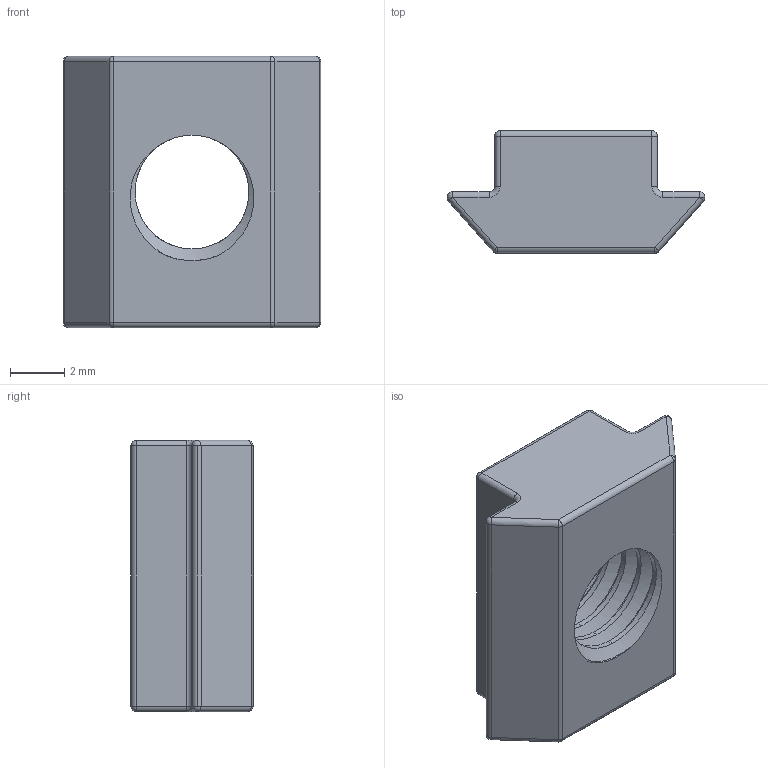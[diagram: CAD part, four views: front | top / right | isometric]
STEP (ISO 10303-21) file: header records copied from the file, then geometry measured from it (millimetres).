
FILE_DESCRIPTION (( 'STEP AP214' ), '1' );
FILE_NAME ('T-Slot Somunu.STEP', '2026-01-28T11:34:02', ( '' ), ( '' ), 'SwSTEP 2.0', 'SolidWorks 2020', '' );
FILE_SCHEMA (( 'AUTOMOTIVE_DESIGN' ));
Length unit declared in the file: millimetre
Products named in the file (1): T-Slot Somunu
Bounding box: 9.51 x 4.5 x 10 mm (x, y, z)
Volume: 240.1 mm3; surface area: 383.8 mm2
Topology: 1 solids, 1 shells, 70 faces, 168 edges, 88 vertices
Faces by surface type: cylinder 38, sphere 14, plane 11, torus 4, bspline 3
Entity records: 2826 total; most frequent: CARTESIAN_POINT 1297, DIRECTION 327, ORIENTED_EDGE 312, EDGE_CURVE 156, AXIS2_PLACEMENT_3D 131, VERTEX_POINT 88, EDGE_LOOP 72, ADVANCED_FACE 70
